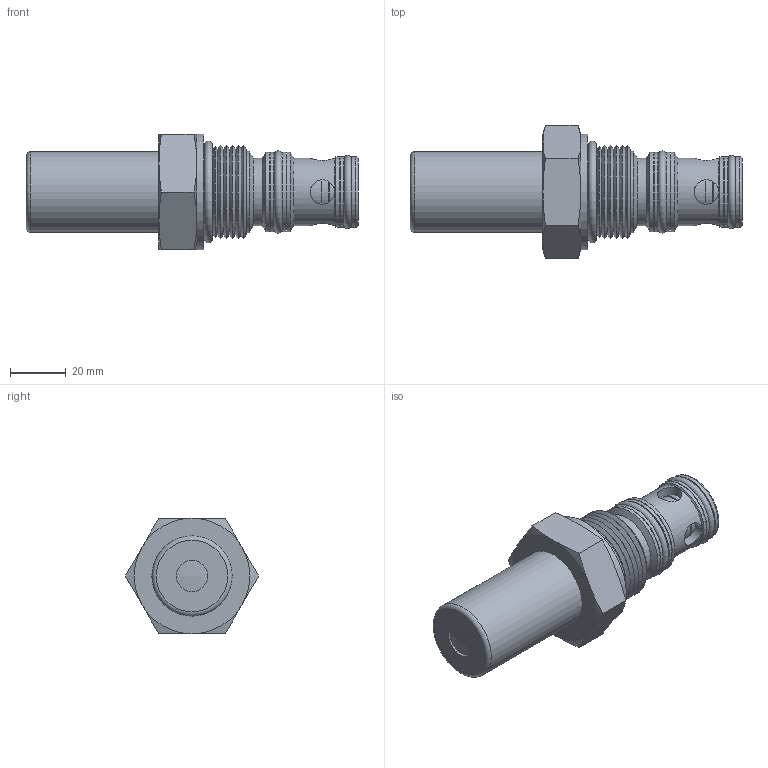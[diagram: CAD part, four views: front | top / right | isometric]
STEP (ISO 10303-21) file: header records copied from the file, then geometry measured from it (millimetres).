
FILE_DESCRIPTION((''),'2;1');
FILE_NAME('Q:\Delta CADD Insertion Codes\3D Solid models\Mechanical Valves\DWG\SLPCE0T.stp','2012-12-06T13:21:56',('Dan'),(''),'Autodesk Inventor 2012','Autodesk Inventor 2012','');
FILE_SCHEMA(('AUTOMOTIVE_DESIGN { 1 0 10303 214 1 1 1 1 }'));
Length unit declared in the file: inch
Products named in the file (8): Assembly16; Part208; Part210; Part212; Part214; Part216; Part218; Part220
Assembly tree (7 placements, depth 2):
  Assembly16
    Part208
    Part210
    Part212
    Part214
    Part216
    Part218
    Part220
Bounding box: 118.62 x 47.66 x 41.27 mm (x, y, z)
Volume: 84181.4 mm3; surface area: 20962.1 mm2
Topology: 7 solids, 7 shells, 90 faces, 176 edges, 105 vertices
Faces by surface type: cylinder 29, cone 28, plane 27, torus 5, sphere 1
Full cylindrical faces by diameter (mm): 0.762 x1, 8.738 x4, 11.151 x1, 16.459 x2, 17.462 x2, 17.479 x1, 20.93 x2, 24.105 x4, 24.13 x1, 25.248 x1, 25.349 x2, 28.423 x2, 28.524 x2, 28.702 x1, 29.21 x1, 30.328 x1, 41.275 x1
Entity records: 2523 total; most frequent: CARTESIAN_POINT 671, DIRECTION 376, ORIENTED_EDGE 240, AXIS2_PLACEMENT_3D 185, EDGE_LOOP 165, EDGE_CURVE 120, VERTEX_POINT 99, FACE_OUTER_BOUND 90
